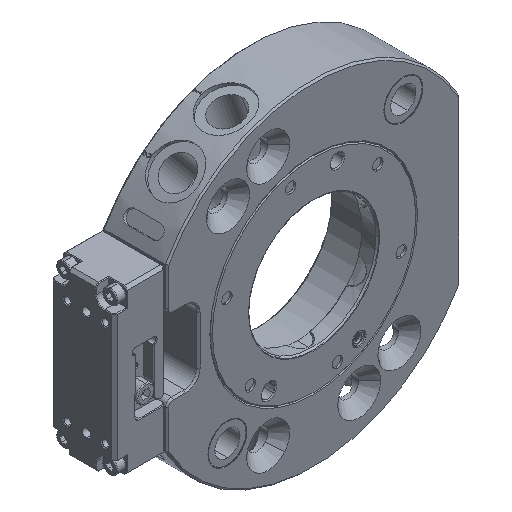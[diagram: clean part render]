
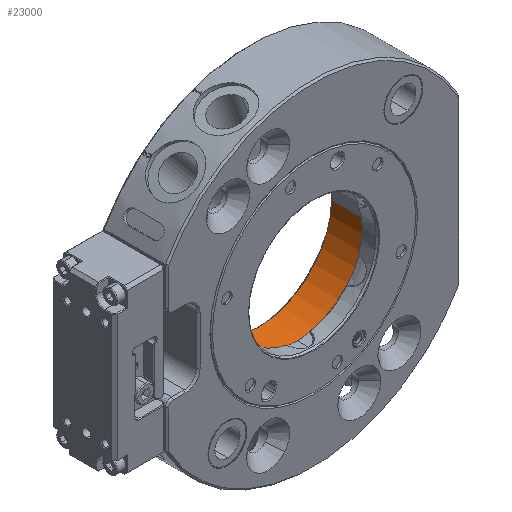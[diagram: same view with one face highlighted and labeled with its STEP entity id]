
A CAD part, isometric view. The second image highlights one B-rep face of the part: STEP entity #23000.
In plain terms, the highlighted cylindrical face has radius 35 mm (diameter 70 mm), a partial arc.
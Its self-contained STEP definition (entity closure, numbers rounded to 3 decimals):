
#4838 = EDGE_CURVE ( 'NONE', #86840, #86210, #40775, .T. ) ;
#9324 = DIRECTION ( 'NONE',  ( 0., 1., 0. ) ) ;
#11013 = VECTOR ( 'NONE', #46101, 1000. ) ;
#12353 = CARTESIAN_POINT ( 'NONE',  ( 4.964, 22.761, 0. ) ) ;
#15669 = ORIENTED_EDGE ( 'NONE', *, *, #83715, .T. ) ;
#17036 = LINE ( 'NONE', #74462, #99014 ) ;
#17143 = DIRECTION ( 'NONE',  ( 1., 0., 0. ) ) ;
#18292 = LINE ( 'NONE', #26924, #11013 ) ;
#23000 = ADVANCED_FACE ( 'NONE', ( #43336 ), #47650, .F. ) ;
#25325 = CARTESIAN_POINT ( 'NONE',  ( 39.964, 27.061, 0. ) ) ;
#26924 = CARTESIAN_POINT ( 'NONE',  ( 74.964, 27.061, 0. ) ) ;
#28706 = EDGE_CURVE ( 'NONE', #86840, #68062, #17036, .T. ) ;
#33093 = DIRECTION ( 'NONE',  ( 1., 0., 0. ) ) ;
#33223 = VERTEX_POINT ( 'NONE', #57513 ) ;
#33726 = DIRECTION ( 'NONE',  ( 0., 1., 0. ) ) ;
#40775 = CIRCLE ( 'NONE', #89456, 35. ) ;
#42509 = CIRCLE ( 'NONE', #106374, 35. ) ;
#43336 = FACE_OUTER_BOUND ( 'NONE', #118390, .T. ) ;
#44322 = DIRECTION ( 'NONE',  ( 1., 0., 0. ) ) ;
#44495 = CARTESIAN_POINT ( 'NONE',  ( 74.964, 4.461, 0. ) ) ;
#46101 = DIRECTION ( 'NONE',  ( 0., 1., 0. ) ) ;
#47650 = CYLINDRICAL_SURFACE ( 'NONE', #64256, 35. ) ;
#52302 = ORIENTED_EDGE ( 'NONE', *, *, #28706, .F. ) ;
#55394 = ORIENTED_EDGE ( 'NONE', *, *, #4838, .T. ) ;
#57513 = CARTESIAN_POINT ( 'NONE',  ( 74.964, 22.761, 0. ) ) ;
#60920 = DIRECTION ( 'NONE',  ( 0., -1., 0. ) ) ;
#62362 = CARTESIAN_POINT ( 'NONE',  ( 39.964, 22.761, 0. ) ) ;
#64256 = AXIS2_PLACEMENT_3D ( 'NONE', #25325, #110559, #17143 ) ;
#65503 = ORIENTED_EDGE ( 'NONE', *, *, #91620, .T. ) ;
#68062 = VERTEX_POINT ( 'NONE', #12353 ) ;
#74462 = CARTESIAN_POINT ( 'NONE',  ( 4.964, 27.061, 0. ) ) ;
#83715 = EDGE_CURVE ( 'NONE', #86210, #33223, #18292, .T. ) ;
#86210 = VERTEX_POINT ( 'NONE', #44495 ) ;
#86840 = VERTEX_POINT ( 'NONE', #103269 ) ;
#89456 = AXIS2_PLACEMENT_3D ( 'NONE', #89562, #60920, #33093 ) ;
#89562 = CARTESIAN_POINT ( 'NONE',  ( 39.964, 4.461, 0. ) ) ;
#91620 = EDGE_CURVE ( 'NONE', #33223, #68062, #42509, .T. ) ;
#99014 = VECTOR ( 'NONE', #9324, 1000. ) ;
#103269 = CARTESIAN_POINT ( 'NONE',  ( 4.964, 4.461, 0. ) ) ;
#106374 = AXIS2_PLACEMENT_3D ( 'NONE', #62362, #33726, #44322 ) ;
#110559 = DIRECTION ( 'NONE',  ( 0., 1., 0. ) ) ;
#118390 = EDGE_LOOP ( 'NONE', ( #52302, #55394, #15669, #65503 ) ) ;
